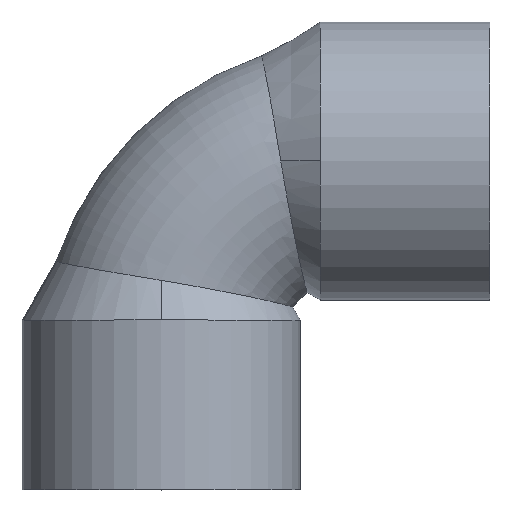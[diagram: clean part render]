
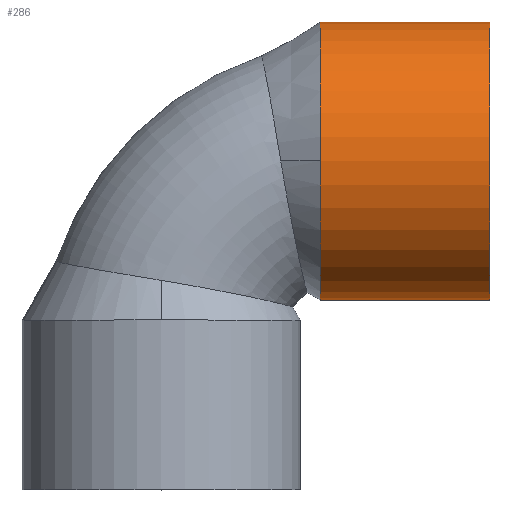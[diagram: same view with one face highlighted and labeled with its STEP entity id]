
A CAD part, top view. The second image highlights one B-rep face of the part: STEP entity #286.
In plain terms, the highlighted cylindrical face has radius 13.7 mm (diameter 27.4 mm), a partial arc.
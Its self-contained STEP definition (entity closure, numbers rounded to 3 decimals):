
#236=CARTESIAN_POINT('',(24.028,0.,0.0));
#237=DIRECTION('',(1.0,0.,0.0));
#238=DIRECTION('',(0.0,1.0,0.0));
#239=AXIS2_PLACEMENT_3D('',#236,#237,#238);
#240=CYLINDRICAL_SURFACE('',#239,13.7);
#241=CARTESIAN_POINT('',(15.678,13.7,0.0));
#242=VERTEX_POINT('',#241);
#243=CARTESIAN_POINT('',(32.378,13.7,0.0));
#244=VERTEX_POINT('',#243);
#245=CARTESIAN_POINT('',(15.678,13.7,0.0));
#246=DIRECTION('',(1.0,0.0,0.0));
#247=VECTOR('',#246,16.7);
#248=LINE('',#245,#247);
#249=EDGE_CURVE('',#242,#244,#248,.T.);
#250=ORIENTED_EDGE('',*,*,#249,.F.);
#251=CARTESIAN_POINT('',(15.678,0.,13.7));
#252=VERTEX_POINT('',#251);
#253=CARTESIAN_POINT('',(15.678,0.,0.0));
#254=DIRECTION('',(1.0,0.0,0.0));
#255=DIRECTION('',(0.0,1.0,0.0));
#256=AXIS2_PLACEMENT_3D('',#253,#254,#255);
#257=CIRCLE('',#256,13.7);
#258=EDGE_CURVE('',#242,#252,#257,.T.);
#259=ORIENTED_EDGE('',*,*,#258,.T.);
#260=CARTESIAN_POINT('',(15.678,-13.7,0.));
#261=VERTEX_POINT('',#260);
#262=CARTESIAN_POINT('',(15.678,0.,0.0));
#263=DIRECTION('',(1.0,0.0,0.0));
#264=DIRECTION('',(0.0,1.0,0.0));
#265=AXIS2_PLACEMENT_3D('',#262,#263,#264);
#266=CIRCLE('',#265,13.7);
#267=EDGE_CURVE('',#252,#261,#266,.T.);
#268=ORIENTED_EDGE('',*,*,#267,.T.);
#269=CARTESIAN_POINT('',(32.378,-13.7,0.));
#270=VERTEX_POINT('',#269);
#271=CARTESIAN_POINT('',(32.378,-13.7,0.));
#272=DIRECTION('',(-1.0,0.0,0.0));
#273=VECTOR('',#272,16.7);
#274=LINE('',#271,#273);
#275=EDGE_CURVE('',#270,#261,#274,.T.);
#276=ORIENTED_EDGE('',*,*,#275,.F.);
#277=CARTESIAN_POINT('',(32.378,0.,0.0));
#278=DIRECTION('',(1.0,0.0,0.0));
#279=DIRECTION('',(0.0,1.0,0.0));
#280=AXIS2_PLACEMENT_3D('',#277,#278,#279);
#281=CIRCLE('',#280,13.7);
#282=EDGE_CURVE('',#244,#270,#281,.T.);
#283=ORIENTED_EDGE('',*,*,#282,.F.);
#284=EDGE_LOOP('',(#250,#259,#268,#276,#283));
#285=FACE_OUTER_BOUND('',#284,.T.);
#286=ADVANCED_FACE('',(#285),#240,.T.);
